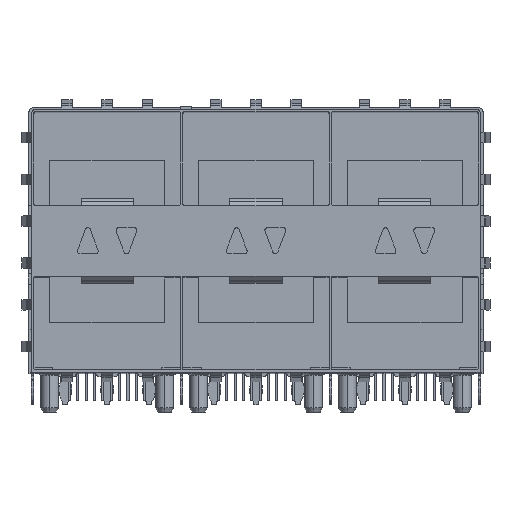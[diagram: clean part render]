
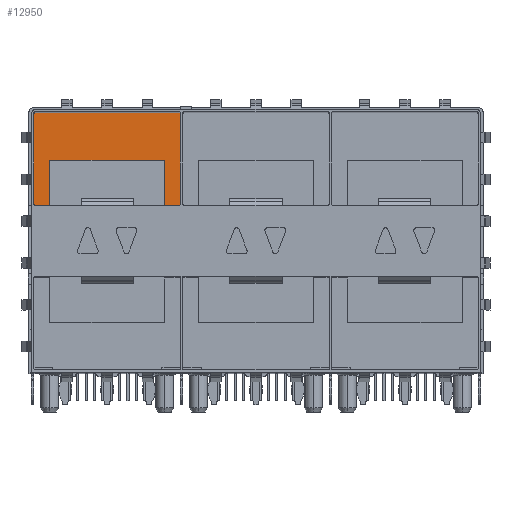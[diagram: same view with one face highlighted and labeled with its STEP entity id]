
A CAD part, top view. The second image highlights one B-rep face of the part: STEP entity #12950.
In plain terms, the highlighted planar face has unit normal (0, 0, 1).
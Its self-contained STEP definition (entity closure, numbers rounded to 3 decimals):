
#201 = VERTEX_POINT ( 'NONE', #22313 ) ;
#464 = CARTESIAN_POINT ( 'NONE',  ( -8.75, 16., -48.55 ) ) ;
#1002 = CARTESIAN_POINT ( 'NONE',  ( -8.75, 16., -48.55 ) ) ;
#1067 = CARTESIAN_POINT ( 'NONE',  ( -21.15, 24.85, -48.55 ) ) ;
#1631 = CIRCLE ( 'NONE', #21707, 0.1 ) ;
#2042 = LINE ( 'NONE', #464, #44099 ) ;
#2540 = CARTESIAN_POINT ( 'NONE',  ( -21.15, 24.95, -48.55 ) ) ;
#3780 = LINE ( 'NONE', #42770, #4524 ) ;
#4029 = VERTEX_POINT ( 'NONE', #14532 ) ;
#4083 = VERTEX_POINT ( 'NONE', #2540 ) ;
#4524 = VECTOR ( 'NONE', #55940, 1000. ) ;
#4832 = EDGE_CURVE ( 'NONE', #21298, #22915, #45938, .T. ) ;
#5141 = DIRECTION ( 'NONE',  ( 0., 0., 1. ) ) ;
#7137 = ORIENTED_EDGE ( 'NONE', *, *, #34178, .T. ) ;
#7859 = DIRECTION ( 'NONE',  ( -1., 0., 0. ) ) ;
#7908 = DIRECTION ( 'NONE',  ( 0., 0., 1. ) ) ;
#8106 = CARTESIAN_POINT ( 'NONE',  ( -7.35, 16.1, -48.55 ) ) ;
#8995 = ORIENTED_EDGE ( 'NONE', *, *, #4832, .T. ) ;
#9898 = CARTESIAN_POINT ( 'NONE',  ( -19.75, 20.35, -48.55 ) ) ;
#11445 = EDGE_LOOP ( 'NONE', ( #56954, #20252, #22606, #44360, #8995, #33753, #7137, #27496, #16660, #12298, #44692, #37050 ) ) ;
#11991 = CARTESIAN_POINT ( 'NONE',  ( -7.35, 24.95, -48.55 ) ) ;
#12298 = ORIENTED_EDGE ( 'NONE', *, *, #56403, .T. ) ;
#12451 = EDGE_CURVE ( 'NONE', #18064, #55431, #16418, .T. ) ;
#12950 = ADVANCED_FACE ( 'NONE', ( #38862 ), #42675, .F. ) ;
#14210 = DIRECTION ( 'NONE',  ( -1., 0., 0. ) ) ;
#14532 = CARTESIAN_POINT ( 'NONE',  ( -7.35, 16., -48.55 ) ) ;
#16180 = DIRECTION ( 'NONE',  ( -1., 0., 0. ) ) ;
#16418 = CIRCLE ( 'NONE', #40870, 0.1 ) ;
#16525 = VERTEX_POINT ( 'NONE', #24415 ) ;
#16660 = ORIENTED_EDGE ( 'NONE', *, *, #35767, .T. ) ;
#16678 = LINE ( 'NONE', #43133, #40826 ) ;
#17114 = DIRECTION ( 'NONE',  ( -1., 0., 0. ) ) ;
#18064 = VERTEX_POINT ( 'NONE', #53757 ) ;
#20252 = ORIENTED_EDGE ( 'NONE', *, *, #29691, .T. ) ;
#21264 = CARTESIAN_POINT ( 'NONE',  ( -21.25, 16.1, -48.55 ) ) ;
#21270 = LINE ( 'NONE', #56744, #25428 ) ;
#21298 = VERTEX_POINT ( 'NONE', #21264 ) ;
#21707 = AXIS2_PLACEMENT_3D ( 'NONE', #1067, #5141, #53511 ) ;
#22313 = CARTESIAN_POINT ( 'NONE',  ( -7.25, 16.1, -48.55 ) ) ;
#22606 = ORIENTED_EDGE ( 'NONE', *, *, #35088, .T. ) ;
#22915 = VERTEX_POINT ( 'NONE', #33773 ) ;
#22930 = LINE ( 'NONE', #37374, #56081 ) ;
#23334 = EDGE_CURVE ( 'NONE', #29113, #31964, #30509, .T. ) ;
#23679 = EDGE_CURVE ( 'NONE', #4029, #201, #40129, .T. ) ;
#24262 = AXIS2_PLACEMENT_3D ( 'NONE', #30147, #56214, #7859 ) ;
#24415 = CARTESIAN_POINT ( 'NONE',  ( -21.25, 24.85, -48.55 ) ) ;
#24843 = LINE ( 'NONE', #34694, #39300 ) ;
#24966 = CARTESIAN_POINT ( 'NONE',  ( -19.75, 16., -48.55 ) ) ;
#25226 = EDGE_CURVE ( 'NONE', #16525, #21298, #21270, .T. ) ;
#25406 = DIRECTION ( 'NONE',  ( 0., 0., 1. ) ) ;
#25428 = VECTOR ( 'NONE', #52869, 1000. ) ;
#25748 = AXIS2_PLACEMENT_3D ( 'NONE', #36506, #36121, #14210 ) ;
#25888 = CARTESIAN_POINT ( 'NONE',  ( -19.75, 20.35, -48.55 ) ) ;
#26075 = DIRECTION ( 'NONE',  ( 0., 1., 0. ) ) ;
#26385 = DIRECTION ( 'NONE',  ( -1., 0., 0. ) ) ;
#27496 = ORIENTED_EDGE ( 'NONE', *, *, #23334, .T. ) ;
#27675 = VERTEX_POINT ( 'NONE', #1002 ) ;
#29113 = VERTEX_POINT ( 'NONE', #25888 ) ;
#29691 = EDGE_CURVE ( 'NONE', #55431, #4083, #24843, .T. ) ;
#29856 = DIRECTION ( 'NONE',  ( 0., -1., 0. ) ) ;
#29979 = LINE ( 'NONE', #47652, #38260 ) ;
#30147 = CARTESIAN_POINT ( 'NONE',  ( -21.5, 25.2, -48.55 ) ) ;
#30509 = LINE ( 'NONE', #9898, #49148 ) ;
#31303 = DIRECTION ( 'NONE',  ( 1., 0., 0. ) ) ;
#31964 = VERTEX_POINT ( 'NONE', #55640 ) ;
#32185 = DIRECTION ( 'NONE',  ( 1., 0., 0. ) ) ;
#33700 = EDGE_CURVE ( 'NONE', #201, #18064, #29979, .T. ) ;
#33753 = ORIENTED_EDGE ( 'NONE', *, *, #52202, .T. ) ;
#33773 = CARTESIAN_POINT ( 'NONE',  ( -21.15, 16., -48.55 ) ) ;
#34178 = EDGE_CURVE ( 'NONE', #39781, #29113, #3780, .T. ) ;
#34694 = CARTESIAN_POINT ( 'NONE',  ( -7.35, 24.95, -48.55 ) ) ;
#35088 = EDGE_CURVE ( 'NONE', #4083, #16525, #1631, .T. ) ;
#35767 = EDGE_CURVE ( 'NONE', #31964, #27675, #16678, .T. ) ;
#36121 = DIRECTION ( 'NONE',  ( 0., 0., 1. ) ) ;
#36506 = CARTESIAN_POINT ( 'NONE',  ( -21.15, 16.1, -48.55 ) ) ;
#37050 = ORIENTED_EDGE ( 'NONE', *, *, #33700, .T. ) ;
#37188 = DIRECTION ( 'NONE',  ( 1., 0., 0. ) ) ;
#37374 = CARTESIAN_POINT ( 'NONE',  ( -19.75, 16., -48.55 ) ) ;
#38260 = VECTOR ( 'NONE', #26075, 1000. ) ;
#38862 = FACE_OUTER_BOUND ( 'NONE', #11445, .T. ) ;
#39300 = VECTOR ( 'NONE', #26385, 1000. ) ;
#39781 = VERTEX_POINT ( 'NONE', #24966 ) ;
#40129 = CIRCLE ( 'NONE', #47627, 0.1 ) ;
#40826 = VECTOR ( 'NONE', #29856, 1000. ) ;
#40870 = AXIS2_PLACEMENT_3D ( 'NONE', #42527, #7908, #16180 ) ;
#42527 = CARTESIAN_POINT ( 'NONE',  ( -7.35, 24.85, -48.55 ) ) ;
#42675 = PLANE ( 'NONE',  #24262 ) ;
#42770 = CARTESIAN_POINT ( 'NONE',  ( -19.75, 20.35, -48.55 ) ) ;
#43133 = CARTESIAN_POINT ( 'NONE',  ( -8.75, 20.35, -48.55 ) ) ;
#44099 = VECTOR ( 'NONE', #31303, 1000. ) ;
#44360 = ORIENTED_EDGE ( 'NONE', *, *, #25226, .T. ) ;
#44692 = ORIENTED_EDGE ( 'NONE', *, *, #23679, .T. ) ;
#45938 = CIRCLE ( 'NONE', #25748, 0.1 ) ;
#47627 = AXIS2_PLACEMENT_3D ( 'NONE', #8106, #25406, #17114 ) ;
#47652 = CARTESIAN_POINT ( 'NONE',  ( -7.25, 16.1, -48.55 ) ) ;
#49148 = VECTOR ( 'NONE', #32185, 1000. ) ;
#52202 = EDGE_CURVE ( 'NONE', #22915, #39781, #22930, .T. ) ;
#52869 = DIRECTION ( 'NONE',  ( 0., -1., 0. ) ) ;
#53511 = DIRECTION ( 'NONE',  ( -1., 0., 0. ) ) ;
#53757 = CARTESIAN_POINT ( 'NONE',  ( -7.25, 24.85, -48.55 ) ) ;
#55431 = VERTEX_POINT ( 'NONE', #11991 ) ;
#55640 = CARTESIAN_POINT ( 'NONE',  ( -8.75, 20.35, -48.55 ) ) ;
#55940 = DIRECTION ( 'NONE',  ( 0., 1., 0. ) ) ;
#56081 = VECTOR ( 'NONE', #37188, 1000. ) ;
#56214 = DIRECTION ( 'NONE',  ( 0., 0., -1. ) ) ;
#56403 = EDGE_CURVE ( 'NONE', #27675, #4029, #2042, .T. ) ;
#56744 = CARTESIAN_POINT ( 'NONE',  ( -21.25, 24.85, -48.55 ) ) ;
#56954 = ORIENTED_EDGE ( 'NONE', *, *, #12451, .T. ) ;
